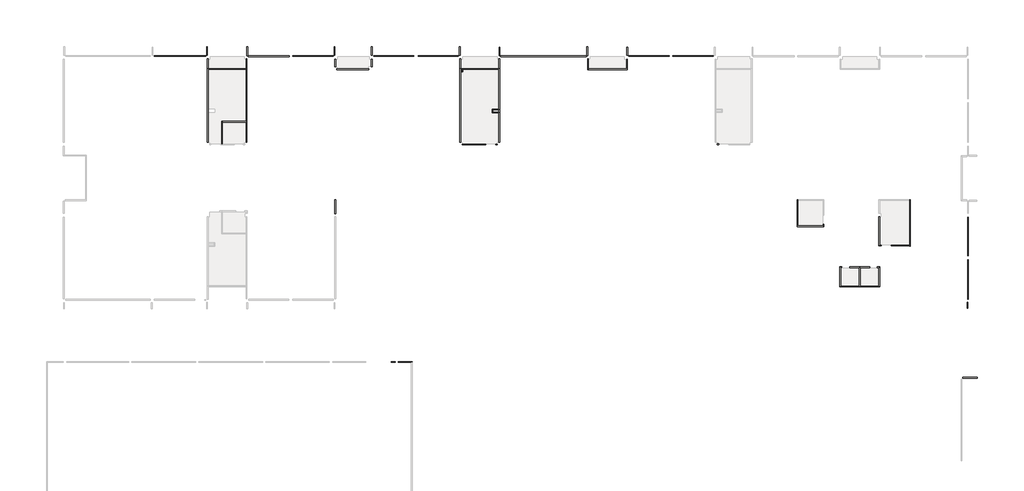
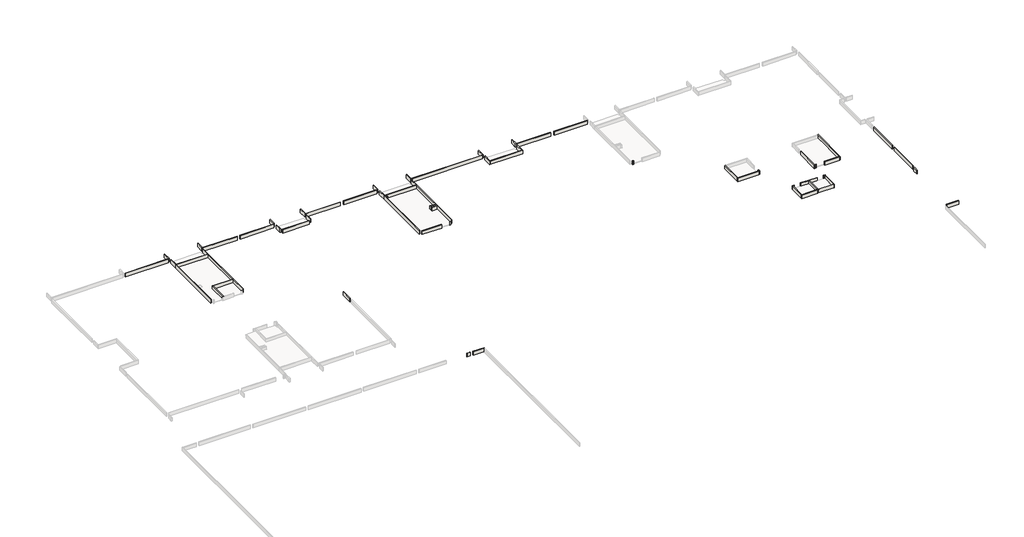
# One storey, part 3 of 4: 66 walls.
"""IFC4 building model written with IfcOpenShell, lengths in millimetres."""

from ifc_helpers import new_model, si_unit, frame, origin, place, context, project, spatial, polyline, outline, extrude, faceted_brep, element, save

model = new_model("IFC4")

# Units and contexts
model_context = context("Model", 3, world=origin())
ifc_project = project(units=[si_unit("LENGTHUNIT", "METRE", prefix="MILLI")], contexts=[model_context])

# Site, building, storey
site = spatial("IfcSite", under=ifc_project)
building = spatial("IfcBuilding", under=site)
storey = spatial("IfcBuildingStorey", under=building, Name="PLANTA DE IMPERMEABILIZAÇÃO - TERREO", Elevation=52050.0)

# Walls
placement = place(None, origin())
element("IfcWall", 1, ObjectType="Áreas frias", at=placement, inside=storey, context=model_context, shape_type="Brep", body=[
    faceted_brep([(-45007.049875, 22025.4418221, 52050.0), (-45007.049875, 28604.3823991, 52050.0), (-45007.049875, 28636.8823991, 52050.0), (-45007.049875, 28636.8823991, 52450.0), (-45007.049875, 28604.3823991, 52450.0), (-45007.049875, 22025.4418221, 52450.0), (-45072.049875, 22025.4418221, 52050.0), (-45072.049875, 22025.4418221, 52450.0), (-45072.049875, 28636.8823991, 52450.0), (-45072.049875, 28636.8823991, 52050.0)], [[[0, 1, 2, 3, 4, 5]], [[6, 7, 8, 9]], [[2, 1, 0, 6, 9]], [[3, 2, 9, 8]], [[5, 4, 3, 8, 7]], [[0, 5, 7, 6]]]),
])
element("IfcWall", 2, ObjectType="Áreas frias", at=placement, inside=storey, context=model_context, shape_type="Brep", body=[
    faceted_brep([(-45007.049875, 28604.3823991, 52050.0), (-41567.0467035, 28604.3823991, 52050.0), (-41567.0467035, 28604.3823991, 52450.0), (-45007.049875, 28604.3823991, 52450.0), (-45007.049875, 28669.3823991, 52050.0), (-45007.049875, 28669.3823991, 52450.0), (-41567.0467035, 28669.3823991, 52450.0), (-41567.0467035, 28669.3823991, 52050.0), (-45007.049875, 28636.8823991, 52050.0), (-41567.0467035, 28636.8823991, 52050.0), (-41567.0467035, 28636.8823991, 52450.0), (-45007.049875, 28636.8823991, 52450.0)], [[[0, 1, 2, 3]], [[4, 5, 6, 7]], [[1, 0, 8, 4, 7, 9]], [[3, 2, 10, 6, 5, 11]], [[0, 3, 11, 5, 4, 8]], [[2, 1, 9, 7, 6, 10]]]),
])
element("IfcWall", 3, ObjectType="Áreas frias", at=placement, inside=storey, context=model_context, shape_type="Brep", body=[
    faceted_brep([(-41567.0467035, 29574.7226879, 52050.0), (-41567.0467035, 28669.3823991, 52050.0), (-41567.0467035, 28636.8823991, 52050.0), (-41567.0467035, 28636.8823991, 52450.0), (-41567.0467035, 28669.3823991, 52450.0), (-41567.0467035, 29574.7226879, 52450.0), (-41502.0467035, 29574.7226879, 52050.0), (-41502.0467035, 29574.7226879, 52450.0), (-41502.0467035, 28636.8823991, 52450.0), (-41502.0467035, 28636.8823991, 52050.0)], [[[0, 1, 2, 3, 4, 5]], [[6, 7, 8, 9]], [[2, 1, 0, 6, 9]], [[3, 2, 9, 8]], [[5, 4, 3, 8, 7]], [[0, 5, 7, 6]]]),
])
element("IfcWall", 4, ObjectType="Áreas frias", at=placement, inside=storey, context=model_context, shape_type="Brep", body=[
    faceted_brep([(-43727.9504459, 21869.3823991, 52050.0), (-43727.9504459, 23849.3823991, 52050.0), (-43727.9504459, 23914.3823991, 52050.0), (-43727.9504459, 23914.3823991, 52450.0), (-43727.9504459, 23849.3823991, 52450.0), (-43727.9504459, 21869.3823991, 52450.0), (-43792.9504459, 21869.3823991, 52050.0), (-43792.9504459, 21869.3823991, 52450.0), (-43792.9504459, 23914.3823991, 52450.0), (-43792.9504459, 23914.3823991, 52050.0)], [[[0, 1, 2, 3, 4, 5]], [[6, 7, 8, 9]], [[2, 1, 0, 6, 9]], [[5, 4, 3, 8, 7]], [[3, 2, 9, 8]], [[0, 5, 7, 6]]]),
])
element("IfcWall", 5, ObjectType="Áreas frias", at=placement, inside=storey, context=model_context, shape_type="Brep", body=[
    faceted_brep([(-43727.9504459, 23849.3823991, 52050.0), (-41567.0467035, 23849.3823991, 52050.0), (-41567.0467035, 23849.3823991, 52450.0), (-43727.9504459, 23849.3823991, 52450.0), (-43727.9504459, 23914.3823991, 52050.0), (-43727.9504459, 23914.3823991, 52450.0), (-41567.0467035, 23914.3823991, 52450.0), (-41567.0467035, 23914.3823991, 52050.0), (-41567.0467035, 23867.9418221, 52050.0), (-41567.0467035, 23867.9418221, 52450.0)], [[[0, 1, 2, 3]], [[4, 5, 6, 7]], [[1, 0, 4, 7, 8]], [[3, 2, 9, 6, 5]], [[0, 3, 5, 4]], [[2, 1, 8, 7, 6, 9]]]),
])
element("IfcWall", 6, ObjectType="Áreas frias", at=placement, inside=storey, context=model_context, shape_type="SweptSolid", body=[
    extrude(outline(polyline([(-33577.0467035, 28823.9390638), (-33577.0467035, 29530.2226879), (-33512.0467035, 29530.2226879), (-33512.0467035, 28823.9390638), (-33577.0467035, 28823.9390638)])), frame((0.0, 0.0, 52050.0), z_axis=(0.0, 0.0, 1.0), x_axis=(1.0, 0.0, 0.0)), (0.0, 0.0, 1.0), 400.0),
])
element("IfcWall", 7, ObjectType="Áreas frias", at=placement, inside=storey, context=model_context, shape_type="SweptSolid", body=[
    extrude(outline(polyline([(-30505.3755098, 28586.4390638), (-33421.0467035, 28586.4390638), (-33421.0467035, 28651.4390638), (-30505.3755098, 28651.4390638), (-30505.3755098, 28586.4390638)])), frame((0.0, 0.0, 52050.0), z_axis=(0.0, 0.0, 1.0), x_axis=(1.0, 0.0, 0.0)), (0.0, 0.0, 1.0), 400.0),
])
element("IfcWall", 8, ObjectType="Áreas frias", at=placement, inside=storey, context=model_context, shape_type="SweptSolid", body=[
    extrude(outline(polyline([(-30225.8755098, 29530.2226879), (-30225.8755098, 28823.9390638), (-30290.8755098, 28823.9390638), (-30290.8755098, 29530.2226879), (-30225.8755098, 29530.2226879)])), frame((0.0, 0.0, 52050.0), z_axis=(0.0, 0.0, 1.0), x_axis=(1.0, 0.0, 0.0)), (0.0, 0.0, 1.0), 400.0),
])
element("IfcWall", 9, ObjectType="Áreas frias", at=placement, inside=storey, context=model_context, shape_type="Brep", body=[
    faceted_brep([(-22247.049875, 22016.4418221, 52050.0), (-22247.049875, 28604.3823991, 52050.0), (-22247.049875, 28636.8823991, 52050.0), (-22247.049875, 28636.8823991, 52450.0), (-22247.049875, 28604.3823991, 52450.0), (-22247.049875, 22016.4418221, 52450.0), (-22312.049875, 22016.4418221, 52050.0), (-22312.049875, 22016.4418221, 52450.0), (-22312.049875, 28636.8823991, 52450.0), (-22312.049875, 28636.8823991, 52050.0)], [[[0, 1, 2, 3, 4, 5]], [[6, 7, 8, 9]], [[2, 1, 0, 6, 9]], [[3, 2, 9, 8]], [[5, 4, 3, 8, 7]], [[0, 5, 7, 6]]]),
])
element("IfcWall", 10, ObjectType="Áreas frias", at=placement, inside=storey, context=model_context, shape_type="Brep", body=[
    faceted_brep([(-22247.049875, 28604.3823991, 52050.0), (-18802.0467035, 28604.3823991, 52050.0), (-18802.0467035, 28604.3823991, 52450.0), (-22247.049875, 28604.3823991, 52450.0), (-22247.049875, 28669.3823991, 52050.0), (-22247.049875, 28669.3823991, 52450.0), (-18802.0467035, 28669.3823991, 52450.0), (-18802.0467035, 28669.3823991, 52050.0), (-22247.049875, 28636.8823991, 52050.0), (-18802.0467035, 28636.8823991, 52050.0), (-18802.0467035, 28636.8823991, 52450.0), (-22247.049875, 28636.8823991, 52450.0)], [[[0, 1, 2, 3]], [[4, 5, 6, 7]], [[1, 0, 8, 4, 7, 9]], [[3, 2, 10, 6, 5, 11]], [[0, 3, 11, 5, 4, 8]], [[2, 1, 9, 7, 6, 10]]]),
])
element("IfcWall", 11, ObjectType="Áreas frias", at=placement, inside=storey, context=model_context, shape_type="Brep", body=[
    faceted_brep([(-18802.0467035, 29554.7226879, 52050.0), (-18802.0467035, 28669.3823991, 52050.0), (-18802.0467035, 28636.8823991, 52050.0), (-18802.0467035, 28636.8823991, 52450.0), (-18802.0467035, 28669.3823991, 52450.0), (-18802.0467035, 29554.7226879, 52450.0), (-18737.0467035, 29554.7226879, 52050.0), (-18737.0467035, 29554.7226879, 52450.0), (-18737.0467035, 28636.8823991, 52450.0), (-18737.0467035, 28636.8823991, 52050.0)], [[[0, 1, 2, 3, 4, 5]], [[6, 7, 8, 9]], [[2, 1, 0, 6, 9]], [[3, 2, 9, 8]], [[5, 4, 3, 8, 7]], [[0, 5, 7, 6]]]),
])
element("IfcWall", 12, ObjectType="Áreas frias", at=placement, inside=storey, context=model_context, shape_type="SweptSolid", body=[
    extrude(outline(polyline([(-19968.5467035, 21804.3823991), (-22090.5467035, 21804.3823991), (-22090.5467035, 21869.3823991), (-19968.5467035, 21869.3823991), (-19968.5467035, 21804.3823991)])), frame((0.0, 0.0, 52050.0), z_axis=(0.0, 0.0, 1.0), x_axis=(1.0, 0.0, 0.0)), (0.0, 0.0, 1.0), 400.0),
])
element("IfcWall", 13, ObjectType="Áreas frias", at=placement, inside=storey, context=model_context, shape_type="SweptSolid", body=[
    extrude(outline(polyline([(-18953.5467035, 21804.3823991), (-19068.5467035, 21804.3823991), (-19068.5467035, 21869.3823991), (-18953.5467035, 21869.3823991), (-18953.5467035, 21804.3823991)])), frame((0.0, 0.0, 52050.0), z_axis=(0.0, 0.0, 1.0), x_axis=(1.0, 0.0, 0.0)), (0.0, 0.0, 1.0), 400.0),
])
element("IfcWall", 14, ObjectType="Áreas frias", at=placement, inside=storey, context=model_context, shape_type="Brep", body=[
    faceted_brep([(-10812.0467035, 29554.7226879, 52050.0), (-10812.0467035, 28582.2226879, 52050.0), (-10812.0467035, 28582.2226879, 52450.0), (-10812.0467035, 29554.7226879, 52450.0), (-10747.0467035, 29554.7226879, 52050.0), (-10747.0467035, 29554.7226879, 52450.0), (-10747.0467035, 28647.2226879, 52450.0), (-10747.0467035, 28582.2226879, 52450.0), (-10747.0467035, 28582.2226879, 52050.0), (-10747.0467035, 28647.2226879, 52050.0)], [[[0, 1, 2, 3]], [[4, 5, 6, 7, 8, 9]], [[1, 0, 4, 9, 8]], [[3, 2, 7, 6, 5]], [[0, 3, 5, 4]], [[2, 1, 8, 7]]]),
])
element("IfcWall", 15, ObjectType="Áreas frias", at=placement, inside=storey, context=model_context, shape_type="Brep", body=[
    faceted_brep([(-10747.0467035, 28582.2226879, 52050.0), (-7227.0467035, 28582.2226879, 52050.0), (-7227.0467035, 28582.2226879, 52450.0), (-10747.0467035, 28582.2226879, 52450.0), (-10747.0467035, 28647.2226879, 52050.0), (-10747.0467035, 28647.2226879, 52450.0), (-7292.0467035, 28647.2226879, 52450.0), (-7227.0467035, 28647.2226879, 52450.0), (-7227.0467035, 28647.2226879, 52050.0), (-7292.0467035, 28647.2226879, 52050.0)], [[[0, 1, 2, 3]], [[4, 5, 6, 7, 8, 9]], [[1, 0, 4, 9, 8]], [[3, 2, 7, 6, 5]], [[0, 3, 5, 4]], [[2, 1, 8, 7]]]),
])
element("IfcWall", 16, ObjectType="Áreas frias", at=placement, inside=storey, context=model_context, shape_type="SweptSolid", body=[
    extrude(outline(polyline([(-7227.0467035, 29530.2226879), (-7227.0467035, 28647.2226879), (-7292.0467035, 28647.2226879), (-7292.0467035, 29530.2226879), (-7227.0467035, 29530.2226879)])), frame((0.0, 0.0, 52050.0), z_axis=(0.0, 0.0, 1.0), x_axis=(1.0, 0.0, 0.0)), (0.0, 0.0, 1.0), 400.0),
])
element("IfcWall", 17, ObjectType="Áreas frias", at=placement, inside=storey, context=model_context, shape_type="SweptSolid", body=[
    extrude(outline(polyline([(-10929.5467035, 29749.3823991), (-18619.5467035, 29749.3823991), (-18619.5467035, 29814.3823991), (-10929.5467035, 29814.3823991), (-10929.5467035, 29749.3823991)])), frame((0.0, 0.0, 52050.0), z_axis=(0.0, 0.0, 1.0), x_axis=(1.0, 0.0, 0.0)), (0.0, 0.0, 1.0), 400.0),
])
element("IfcWall", 18, ObjectType="Áreas frias", at=placement, inside=storey, context=model_context, shape_type="SweptSolid", body=[
    extrude(outline(polyline([(-10804.549875, 30643.7226879), (-10804.549875, 29848.7226879), (-10869.549875, 29848.7226879), (-10869.549875, 30643.7226879), (-10804.549875, 30643.7226879)])), frame((0.0, 0.0, 52050.0), z_axis=(0.0, 0.0, 1.0), x_axis=(1.0, 0.0, 0.0)), (0.0, 0.0, 1.0), 400.0),
])
element("IfcWall", 19, ObjectType="Áreas frias", at=placement, inside=storey, context=model_context, shape_type="SweptSolid", body=[
    extrude(outline(polyline([(-18705.7982892, 30608.7226879), (-18705.7982892, 29848.7226879), (-18770.7982892, 29848.7226879), (-18770.7982892, 30608.7226879), (-18705.7982892, 30608.7226879)])), frame((0.0, 0.0, 52050.0), z_axis=(0.0, 0.0, 1.0), x_axis=(1.0, 0.0, 0.0)), (0.0, 0.0, 1.0), 400.0),
])
element("IfcWall", 20, ObjectType="Áreas frias", at=placement, inside=storey, context=model_context, shape_type="SweptSolid", body=[
    extrude(outline(polyline([(-7194.3406887, 30613.2226879), (-7194.3406887, 29873.2226879), (-7259.3406887, 29873.2226879), (-7259.3406887, 30613.2226879), (-7194.3406887, 30613.2226879)])), frame((0.0, 0.0, 52050.0), z_axis=(0.0, 0.0, 1.0), x_axis=(1.0, 0.0, 0.0)), (0.0, 0.0, 1.0), 400.0),
])
element("IfcWall", 21, ObjectType="Áreas frias", at=placement, inside=storey, context=model_context, shape_type="SweptSolid", body=[
    extrude(outline(polyline([(-3456.0467035, 29771.8823991), (-7105.5467035, 29771.8823991), (-7105.5467035, 29836.8823991), (-3456.0467035, 29836.8823991), (-3456.0467035, 29771.8823991)])), frame((0.0, 0.0, 52050.0), z_axis=(0.0, 0.0, 1.0), x_axis=(1.0, 0.0, 0.0)), (0.0, 0.0, 1.0), 400.0),
])
element("IfcWall", 22, ObjectType="Áreas frias", at=placement, inside=storey, context=model_context, shape_type="SweptSolid", body=[
    extrude(outline(polyline([(531.4532965, 29771.8823991), (-3108.0467035, 29771.8823991), (-3108.0467035, 29836.8823991), (531.4532965, 29836.8823991), (531.4532965, 29771.8823991)])), frame((0.0, 0.0, 52050.0), z_axis=(0.0, 0.0, 1.0), x_axis=(1.0, 0.0, 0.0)), (0.0, 0.0, 1.0), 400.0),
])
element("IfcWall", 23, ObjectType="Áreas frias", at=placement, inside=storey, context=model_context, shape_type="SweptSolid", body=[
    extrude(outline(polyline([(1009.4532965, 21808.9418221), (884.4532965, 21808.9418221), (884.4532965, 21873.9418221), (1009.4532965, 21873.9418221), (1009.4532965, 21808.9418221)])), frame((0.0, 0.0, 52050.0), z_axis=(0.0, 0.0, 1.0), x_axis=(1.0, 0.0, 0.0)), (0.0, 0.0, 1.0), 400.0),
])
element("IfcWall", 24, ObjectType="Áreas frias", at=placement, inside=storey, context=model_context, shape_type="SweptSolid", body=[
    extrude(outline(polyline([(23442.9532965, 11780.912255), (23442.9532965, 15287.8823991), (23507.9532965, 15287.8823991), (23507.9532965, 11780.912255), (23442.9532965, 11780.912255)])), frame((0.0, 0.0, 52050.0), z_axis=(0.0, 0.0, 1.0), x_axis=(1.0, 0.0, 0.0)), (0.0, 0.0, 1.0), 400.0),
])
element("IfcWall", 25, ObjectType="Áreas frias", at=placement, inside=storey, context=model_context, shape_type="SweptSolid", body=[
    extrude(outline(polyline([(23442.9532965, 7903.9421108), (23442.9532965, 11437.912255), (23507.9532965, 11437.912255), (23507.9532965, 7903.9421108), (23442.9532965, 7903.9421108)])), frame((0.0, 0.0, 52050.0), z_axis=(0.0, 0.0, 1.0), x_axis=(1.0, 0.0, 0.0)), (0.0, 0.0, 1.0), 400.0),
])
element("IfcWall", 26, ObjectType="Áreas frias", at=placement, inside=storey, context=model_context, shape_type="SweptSolid", body=[
    extrude(outline(polyline([(23457.950125, 7609.9421108), (23457.950125, 7059.9421108), (23392.950125, 7059.9421108), (23392.950125, 7609.9421108), (23457.950125, 7609.9421108)])), frame((0.0, 0.0, 52050.0), z_axis=(0.0, 0.0, 1.0), x_axis=(1.0, 0.0, 0.0)), (0.0, 0.0, 1.0), 400.0),
])
element("IfcWall", 27, ObjectType="Áreas frias", at=placement, inside=storey, context=model_context, shape_type="SweptSolid", body=[
    extrude(outline(polyline([(23016.450125, 839.3823991), (24332.0605113, 839.3823991), (24332.0605113, 774.3823991), (23016.450125, 774.3823991), (23016.450125, 839.3823991)])), frame((0.0, 0.0, 52050.0), z_axis=(0.0, 0.0, 1.0), x_axis=(1.0, 0.0, 0.0)), (0.0, 0.0, 1.0), 400.0),
])
element("IfcWall", 28, ObjectType="Áreas frias", at=placement, inside=storey, context=model_context, shape_type="Brep", body=[
    faceted_brep([(13765.450125, 9002.3823973, 52050.0), (13765.450125, 9006.3823977, 52050.0), (13765.450125, 9071.3823977, 52050.0), (13765.450125, 10726.3823977, 52050.0), (13765.450125, 10726.3823977, 52450.0), (13765.450125, 9071.3823977, 52450.0), (13765.450125, 9006.3823977, 52450.0), (13765.450125, 9002.3823973, 52450.0), (13700.450125, 9002.3823973, 52050.0), (13700.450125, 9002.3823973, 52450.0), (13700.450125, 9006.3823977, 52450.0), (13700.450125, 9071.3823977, 52450.0), (13700.450125, 10726.3823977, 52450.0), (13700.450125, 10726.3823977, 52050.0), (13700.450125, 9071.3823977, 52050.0), (13700.450125, 9006.3823977, 52050.0), (13732.950125, 10726.3823977, 52050.0), (13732.950125, 10726.3823977, 52450.0)], [[[0, 1, 2, 3, 4, 5, 6, 7]], [[8, 9, 10, 11, 12, 13, 14, 15]], [[3, 2, 1, 0, 8, 15, 14, 13, 16]], [[7, 6, 5, 4, 17, 12, 11, 10, 9]], [[0, 7, 9, 8]], [[4, 3, 16, 13, 12, 17]]]),
])
element("IfcWall", 29, ObjectType="Áreas frias", at=placement, inside=storey, context=model_context, shape_type="Brep", body=[
    faceted_brep([(12820.4501439, 10726.3823977, 52050.0), (13700.450125, 10726.3823977, 52050.0), (13732.950125, 10726.3823977, 52050.0), (13732.950125, 10726.3823977, 52450.0), (13700.450125, 10726.3823977, 52450.0), (12820.4501439, 10726.3823977, 52450.0), (12820.4501439, 10791.3823977, 52050.0), (12820.4501439, 10791.3823977, 52450.0), (13732.950125, 10791.3823977, 52450.0), (13732.950125, 10791.3823977, 52050.0)], [[[0, 1, 2, 3, 4, 5]], [[6, 7, 8, 9]], [[2, 1, 0, 6, 9]], [[3, 2, 9, 8]], [[5, 4, 3, 8, 7]], [[0, 5, 7, 6]]]),
])
element("IfcWall", 30, ObjectType="Áreas frias", at=placement, inside=storey, context=model_context, shape_type="Brep", body=[
    faceted_brep([(15315.450125, 10726.3823977, 52050.0), (15452.950125, 10726.3823977, 52050.0), (15517.950125, 10726.3823977, 52050.0), (15517.950125, 10726.3823977, 52450.0), (15452.950125, 10726.3823977, 52450.0), (15315.450125, 10726.3823977, 52450.0), (15315.450125, 10791.3823977, 52050.0), (15315.450125, 10791.3823977, 52450.0), (15517.950125, 10791.3823977, 52450.0), (15517.950125, 10791.3823977, 52050.0)], [[[0, 1, 2, 3, 4, 5]], [[6, 7, 8, 9]], [[2, 1, 0, 6, 9]], [[5, 4, 3, 8, 7]], [[0, 5, 7, 6]], [[3, 2, 9, 8]]]),
])
element("IfcWall", 31, ObjectType="Áreas frias", at=placement, inside=storey, context=model_context, shape_type="Brep", body=[
    faceted_brep([(15452.950125, 10726.3823977, 52050.0), (15452.950125, 9071.3823977, 52050.0), (15452.950125, 9006.3823977, 52050.0), (15452.950125, 9006.3823977, 52450.0), (15452.950125, 9071.3823977, 52450.0), (15452.950125, 10726.3823977, 52450.0), (15517.950125, 10726.3823977, 52050.0), (15517.950125, 10726.3823977, 52450.0), (15517.950125, 9006.3823977, 52450.0), (15517.950125, 9006.3823977, 52050.0)], [[[0, 1, 2, 3, 4, 5]], [[6, 7, 8, 9]], [[2, 1, 0, 6, 9]], [[5, 4, 3, 8, 7]], [[0, 5, 7, 6]], [[3, 2, 9, 8]]]),
])
element("IfcWall", 32, ObjectType="Áreas frias", at=placement, inside=storey, context=model_context, shape_type="SweptSolid", body=[
    extrude(outline(polyline([(13765.450125, 9071.3823977), (15452.950125, 9071.3823977), (15452.950125, 9006.3823977), (13765.450125, 9006.3823977), (13765.450125, 9071.3823977)])), frame((0.0, 0.0, 52050.0), z_axis=(0.0, 0.0, 1.0), x_axis=(1.0, 0.0, 0.0)), (0.0, 0.0, 1.0), 400.0),
])
element("IfcWall", 33, ObjectType="Áreas frias", at=placement, inside=storey, context=model_context, shape_type="SweptSolid", body=[
    extrude(outline(polyline([(11997.950125, 10746.3823977), (11997.950125, 9071.3823977), (11932.950125, 9071.3823977), (11932.950125, 10746.3823977), (11997.950125, 10746.3823977)])), frame((0.0, 0.0, 52050.0), z_axis=(0.0, 0.0, 1.0), x_axis=(1.0, 0.0, 0.0)), (0.0, 0.0, 1.0), 400.0),
])
element("IfcWall", 34, ObjectType="Áreas frias", at=placement, inside=storey, context=model_context, shape_type="Brep", body=[
    faceted_brep([(11932.950125, 10746.3823977, 52050.0), (11997.950125, 10746.3823977, 52050.0), (12120.4501439, 10746.3823977, 52050.0), (12120.4501439, 10746.3823977, 52450.0), (11997.950125, 10746.3823977, 52450.0), (11932.950125, 10746.3823977, 52450.0), (11932.950125, 10811.3823977, 52050.0), (11932.950125, 10811.3823977, 52450.0), (12120.4501439, 10811.3823977, 52450.0), (12120.4501439, 10811.3823977, 52050.0)], [[[0, 1, 2, 3, 4, 5]], [[6, 7, 8, 9]], [[2, 1, 0, 6, 9]], [[3, 2, 9, 8]], [[5, 4, 3, 8, 7]], [[0, 5, 7, 6]]]),
])
element("IfcWall", 35, ObjectType="Áreas frias", at=placement, inside=storey, context=model_context, shape_type="Brep", body=[
    faceted_brep([(18289.9566277, 12670.8824248, 52050.0), (18289.9566277, 16863.3824248, 52050.0), (18289.9566277, 16863.3824248, 52450.0), (18289.9566277, 12670.8824248, 52450.0), (18224.9566277, 12670.8824248, 52050.0), (18224.9566277, 12670.8824248, 52450.0), (18224.9566277, 12685.8824248, 52450.0), (18224.9566277, 12750.8824248, 52450.0), (18224.9566277, 16798.3824248, 52450.0), (18224.9566277, 16863.3824248, 52450.0), (18224.9566277, 16863.3824248, 52050.0), (18224.9566277, 16798.3824248, 52050.0), (18224.9566277, 12750.8824248, 52050.0), (18224.9566277, 12685.8824248, 52050.0)], [[[0, 1, 2, 3]], [[4, 5, 6, 7, 8, 9, 10, 11, 12, 13]], [[1, 0, 4, 13, 12, 11, 10]], [[3, 2, 9, 8, 7, 6, 5]], [[0, 3, 5, 4]], [[2, 1, 10, 9]]]),
])
element("IfcWall", 36, ObjectType="Áreas frias", at=placement, inside=storey, context=model_context, shape_type="Brep", body=[
    faceted_brep([(15457.950125, 15301.8823991, 52050.0), (15457.950125, 12683.3824248, 52050.0), (15457.950125, 12683.3824248, 52450.0), (15457.950125, 15301.8823991, 52450.0), (15522.950125, 15301.8823991, 52050.0), (15522.950125, 15301.8823991, 52450.0), (15522.950125, 12748.3824248, 52450.0), (15522.950125, 12683.3824248, 52450.0), (15522.950125, 12683.3824248, 52050.0), (15522.950125, 12748.3824248, 52050.0)], [[[0, 1, 2, 3]], [[4, 5, 6, 7, 8, 9]], [[1, 0, 4, 9, 8]], [[3, 2, 7, 6, 5]], [[0, 3, 5, 4]], [[2, 1, 8, 7]]]),
])
element("IfcWall", 37, ObjectType="Áreas frias", at=placement, inside=storey, context=model_context, shape_type="SweptSolid", body=[
    extrude(outline(polyline([(15657.950125, 12683.3824248), (15522.950125, 12683.3824248), (15522.950125, 12748.3824248), (15657.950125, 12748.3824248), (15657.950125, 12683.3824248)])), frame((0.0, 0.0, 52050.0), z_axis=(0.0, 0.0, 1.0), x_axis=(1.0, 0.0, 0.0)), (0.0, 0.0, 1.0), 400.0),
])
element("IfcWall", 38, ObjectType="Áreas frias", at=placement, inside=storey, context=model_context, shape_type="SweptSolid", body=[
    extrude(outline(polyline([(18224.9566277, 12685.8824248), (16557.950125, 12685.8824248), (16557.950125, 12750.8824248), (18224.9566277, 12750.8824248), (18224.9566277, 12685.8824248)])), frame((0.0, 0.0, 52050.0), z_axis=(0.0, 0.0, 1.0), x_axis=(1.0, 0.0, 0.0)), (0.0, 0.0, 1.0), 400.0),
])
element("IfcWall", 39, ObjectType="Áreas frias", at=placement, inside=storey, context=model_context, shape_type="Brep", body=[
    faceted_brep([(10412.9501439, 14636.8823991, 52050.0), (10412.9501439, 14499.3823991, 52050.0), (10412.9501439, 14434.3823991, 52050.0), (10412.9501439, 14434.3823991, 52450.0), (10412.9501439, 14499.3823991, 52450.0), (10412.9501439, 14636.8823991, 52450.0), (10477.9501439, 14636.8823991, 52050.0), (10477.9501439, 14636.8823991, 52450.0), (10477.9501439, 14434.3823991, 52450.0), (10477.9501439, 14434.3823991, 52050.0)], [[[0, 1, 2, 3, 4, 5]], [[6, 7, 8, 9]], [[2, 1, 0, 6, 9]], [[5, 4, 3, 8, 7]], [[0, 5, 7, 6]], [[3, 2, 9, 8]]]),
])
element("IfcWall", 40, ObjectType="Áreas frias", at=placement, inside=storey, context=model_context, shape_type="Brep", body=[
    faceted_brep([(10412.9501439, 14499.3823991, 52050.0), (8137.9501439, 14499.3823991, 52050.0), (8072.9501439, 14499.3823991, 52050.0), (8072.9501439, 14499.3823991, 52450.0), (8137.9501439, 14499.3823991, 52450.0), (10412.9501439, 14499.3823991, 52450.0), (10412.9501439, 14434.3823991, 52050.0), (10412.9501439, 14434.3823991, 52450.0), (8072.9501439, 14434.3823991, 52450.0), (8072.9501439, 14434.3823991, 52050.0)], [[[0, 1, 2, 3, 4, 5]], [[6, 7, 8, 9]], [[2, 1, 0, 6, 9]], [[5, 4, 3, 8, 7]], [[0, 5, 7, 6]], [[3, 2, 9, 8]]]),
])
element("IfcWall", 41, ObjectType="Áreas frias", at=placement, inside=storey, context=model_context, shape_type="Brep", body=[
    faceted_brep([(8137.9501439, 14499.3823991, 52050.0), (8137.9501439, 16794.3823991, 52050.0), (8137.9501439, 16859.3823991, 52050.0), (8137.9501439, 16859.3823991, 52450.0), (8137.9501439, 16794.3823991, 52450.0), (8137.9501439, 14499.3823991, 52450.0), (8072.9501439, 14499.3823991, 52050.0), (8072.9501439, 14499.3823991, 52450.0), (8072.9501439, 16859.3823991, 52450.0), (8072.9501439, 16859.3823991, 52050.0)], [[[0, 1, 2, 3, 4, 5]], [[6, 7, 8, 9]], [[2, 1, 0, 6, 9]], [[5, 4, 3, 8, 7]], [[0, 5, 7, 6]], [[3, 2, 9, 8]]]),
])
element("IfcWall", 42, ObjectType="Áreas frias", at=placement, inside=storey, context=model_context, shape_type="SweptSolid", body=[
    extrude(outline(polyline([(-28152.8103323, 2201.8823991), (-28499.549875, 2201.8823991), (-28499.549875, 2266.8823991), (-28152.8103323, 2266.8823991), (-28152.8103323, 2201.8823991)])), frame((0.0, 0.0, 52050.0), z_axis=(0.0, 0.0, 1.0), x_axis=(1.0, 0.0, 0.0)), (0.0, 0.0, 1.0), 400.0),
])
element("IfcWall", 43, ObjectType="Áreas frias", at=placement, inside=storey, context=model_context, shape_type="Brep", body=[
    faceted_brep([(-27856.8103323, 2189.3823991, 52050.0), (-26692.049875, 2189.3823991, 52050.0), (-26627.049875, 2189.3823991, 52050.0), (-26627.049875, 2189.3823991, 52450.0), (-26692.049875, 2189.3823991, 52450.0), (-27856.8103323, 2189.3823991, 52450.0), (-27856.8103323, 2254.3823991, 52050.0), (-27856.8103323, 2254.3823991, 52450.0), (-26627.049875, 2254.3823991, 52450.0), (-26627.049875, 2254.3823991, 52050.0)], [[[0, 1, 2, 3, 4, 5]], [[6, 7, 8, 9]], [[2, 1, 0, 6, 9]], [[5, 4, 3, 8, 7]], [[0, 5, 7, 6]], [[3, 2, 9, 8]]]),
])
element("IfcWall", 44, ObjectType="Áreas frias", at=placement, inside=storey, context=model_context, shape_type="SweptSolid", body=[
    extrude(outline(polyline([(-33512.0467035, 16846.8823991), (-33512.0467035, 15591.8823991), (-33577.0467035, 15591.8823991), (-33577.0467035, 16846.8823991), (-33512.0467035, 16846.8823991)])), frame((0.0, 0.0, 52050.0), z_axis=(0.0, 0.0, 1.0), x_axis=(1.0, 0.0, 0.0)), (0.0, 0.0, 1.0), 400.0),
])
element("IfcWall", 45, ObjectType="Áreas frias", at=placement, inside=storey, context=model_context, shape_type="SweptSolid", body=[
    extrude(outline(polyline([(-45213.5467035, 29771.8823991), (-49853.1865458, 29771.8823991), (-49853.1865458, 29836.8823991), (-45213.5467035, 29836.8823991), (-45213.5467035, 29771.8823991)])), frame((0.0, 0.0, 52050.0), z_axis=(0.0, 0.0, 1.0), x_axis=(1.0, 0.0, 0.0)), (0.0, 0.0, 1.0), 400.0),
])
element("IfcWall", 46, ObjectType="Áreas frias", at=placement, inside=storey, context=model_context, shape_type="SweptSolid", body=[
    extrude(outline(polyline([(-45064.549875, 30656.8823997), (-45064.549875, 29873.2226879), (-45129.549875, 29873.2226879), (-45129.549875, 30656.8823997), (-45064.549875, 30656.8823997)])), frame((0.0, 0.0, 52050.0), z_axis=(0.0, 0.0, 1.0), x_axis=(1.0, 0.0, 0.0)), (0.0, 0.0, 1.0), 400.0),
])
element("IfcWall", 47, ObjectType="Áreas frias", at=placement, inside=storey, context=model_context, shape_type="SweptSolid", body=[
    extrude(outline(polyline([(-41444.549875, 30656.8823997), (-41444.549875, 29848.7226879), (-41509.549875, 29848.7226879), (-41509.549875, 30656.8823997), (-41444.549875, 30656.8823997)])), frame((0.0, 0.0, 52050.0), z_axis=(0.0, 0.0, 1.0), x_axis=(1.0, 0.0, 0.0)), (0.0, 0.0, 1.0), 400.0),
])
element("IfcWall", 48, ObjectType="Áreas frias", at=placement, inside=storey, context=model_context, shape_type="SweptSolid", body=[
    extrude(outline(polyline([(-37689.5467035, 29749.3823991), (-41384.5467035, 29749.3823991), (-41384.5467035, 29814.3823991), (-37689.5467035, 29814.3823991), (-37689.5467035, 29749.3823991)])), frame((0.0, 0.0, 52050.0), z_axis=(0.0, 0.0, 1.0), x_axis=(1.0, 0.0, 0.0)), (0.0, 0.0, 1.0), 400.0),
])
element("IfcWall", 49, ObjectType="Áreas frias", at=placement, inside=storey, context=model_context, shape_type="SweptSolid", body=[
    extrude(outline(polyline([(-33728.5467035, 29771.8823991), (-37379.5467035, 29771.8823991), (-37379.5467035, 29836.8823991), (-33728.5467035, 29836.8823991), (-33728.5467035, 29771.8823991)])), frame((0.0, 0.0, 52050.0), z_axis=(0.0, 0.0, 1.0), x_axis=(1.0, 0.0, 0.0)), (0.0, 0.0, 1.0), 400.0),
])
element("IfcWall", 50, ObjectType="Áreas frias", at=placement, inside=storey, context=model_context, shape_type="SweptSolid", body=[
    extrude(outline(polyline([(-33569.549875, 30633.2226879), (-33569.549875, 29873.2226879), (-33634.549875, 29873.2226879), (-33634.549875, 30633.2226879), (-33569.549875, 30633.2226879)])), frame((0.0, 0.0, 52050.0), z_axis=(0.0, 0.0, 1.0), x_axis=(1.0, 0.0, 0.0)), (0.0, 0.0, 1.0), 400.0),
])
element("IfcWall", 51, ObjectType="Áreas frias", at=placement, inside=storey, context=model_context, shape_type="SweptSolid", body=[
    extrude(outline(polyline([(-30214.549875, 30656.8823997), (-30214.549875, 29873.2226879), (-30279.549875, 29873.2226879), (-30279.549875, 30656.8823997), (-30214.549875, 30656.8823997)])), frame((0.0, 0.0, 52050.0), z_axis=(0.0, 0.0, 1.0), x_axis=(1.0, 0.0, 0.0)), (0.0, 0.0, 1.0), 400.0),
])
element("IfcWall", 52, ObjectType="Áreas frias", at=placement, inside=storey, context=model_context, shape_type="SweptSolid", body=[
    extrude(outline(polyline([(-26453.5467035, 29771.8823991), (-30080.5467035, 29771.8823991), (-30080.5467035, 29836.8823991), (-26453.5467035, 29836.8823991), (-26453.5467035, 29771.8823991)])), frame((0.0, 0.0, 52050.0), z_axis=(0.0, 0.0, 1.0), x_axis=(1.0, 0.0, 0.0)), (0.0, 0.0, 1.0), 400.0),
])
element("IfcWall", 53, ObjectType="Áreas frias", at=placement, inside=storey, context=model_context, shape_type="SweptSolid", body=[
    extrude(outline(polyline([(-22448.5467035, 29771.8823991), (-26085.5467035, 29771.8823991), (-26085.5467035, 29836.8823991), (-22448.5467035, 29836.8823991), (-22448.5467035, 29771.8823991)])), frame((0.0, 0.0, 52050.0), z_axis=(0.0, 0.0, 1.0), x_axis=(1.0, 0.0, 0.0)), (0.0, 0.0, 1.0), 400.0),
])
element("IfcWall", 54, ObjectType="Áreas frias", at=placement, inside=storey, context=model_context, shape_type="SweptSolid", body=[
    extrude(outline(polyline([(-22299.549875, 30643.2226879), (-22299.549875, 29873.2226879), (-22364.549875, 29873.2226879), (-22364.549875, 30643.2226879), (-22299.549875, 30643.2226879)])), frame((0.0, 0.0, 52050.0), z_axis=(0.0, 0.0, 1.0), x_axis=(1.0, 0.0, 0.0)), (0.0, 0.0, 1.0), 400.0),
])
element("IfcWall", 55, ObjectType="Áreas frias", at=placement, inside=storey, context=model_context, shape_type="Brep", body=[
    faceted_brep([(-45007.049875, 28636.8823991, 52050.0), (-45007.049875, 28669.3823991, 52050.0), (-45007.049875, 29565.4418221, 52050.0), (-45007.049875, 29565.4418221, 52450.0), (-45007.049875, 28669.3823991, 52450.0), (-45007.049875, 28636.8823991, 52450.0), (-45072.049875, 28636.8823991, 52050.0), (-45072.049875, 28636.8823991, 52450.0), (-45072.049875, 29565.4418221, 52450.0), (-45072.049875, 29565.4418221, 52050.0)], [[[0, 1, 2, 3, 4, 5]], [[6, 7, 8, 9]], [[2, 1, 0, 6, 9]], [[3, 2, 9, 8]], [[5, 4, 3, 8, 7]], [[0, 5, 7, 6]]]),
])
element("IfcWall", 56, ObjectType="Áreas frias", at=placement, inside=storey, context=model_context, shape_type="Brep", body=[
    faceted_brep([(-41567.0467035, 28636.8823991, 52050.0), (-41567.0467035, 28604.3823991, 52050.0), (-41567.0467035, 23914.3823991, 52050.0), (-41567.0467035, 23867.9418221, 52050.0), (-41567.0467035, 23867.9418221, 52450.0), (-41567.0467035, 23914.3823991, 52450.0), (-41567.0467035, 28604.3823991, 52450.0), (-41567.0467035, 28636.8823991, 52450.0), (-41502.0467035, 28636.8823991, 52050.0), (-41502.0467035, 28636.8823991, 52450.0), (-41502.0467035, 23867.9418221, 52450.0), (-41502.0467035, 23867.9418221, 52050.0)], [[[0, 1, 2, 3, 4, 5, 6, 7]], [[8, 9, 10, 11]], [[3, 2, 1, 0, 8, 11]], [[4, 3, 11, 10]], [[7, 6, 5, 4, 10, 9]], [[0, 7, 9, 8]]]),
])
element("IfcWall", 57, ObjectType="Áreas frias", at=placement, inside=storey, context=model_context, shape_type="Brep", body=[
    faceted_brep([(-22247.049875, 28636.8823991, 52050.0), (-22247.049875, 28669.3823991, 52050.0), (-22247.049875, 29536.4418221, 52050.0), (-22247.049875, 29536.4418221, 52450.0), (-22247.049875, 28669.3823991, 52450.0), (-22247.049875, 28636.8823991, 52450.0), (-22312.049875, 28636.8823991, 52050.0), (-22312.049875, 28636.8823991, 52450.0), (-22312.049875, 29536.4418221, 52450.0), (-22312.049875, 29536.4418221, 52050.0)], [[[0, 1, 2, 3, 4, 5]], [[6, 7, 8, 9]], [[2, 1, 0, 6, 9]], [[3, 2, 9, 8]], [[5, 4, 3, 8, 7]], [[0, 5, 7, 6]]]),
])
element("IfcWall", 58, ObjectType="Áreas frias", at=placement, inside=storey, context=model_context, shape_type="Brep", body=[
    faceted_brep([(-18802.0467035, 28636.8823991, 52050.0), (-18802.0467035, 28604.3823991, 52050.0), (-18802.0467035, 22026.4418221, 52050.0), (-18802.0467035, 22026.4418221, 52450.0), (-18802.0467035, 28604.3823991, 52450.0), (-18802.0467035, 28636.8823991, 52450.0), (-18737.0467035, 28636.8823991, 52050.0), (-18737.0467035, 28636.8823991, 52450.0), (-18737.0467035, 22026.4418221, 52450.0), (-18737.0467035, 22026.4418221, 52050.0)], [[[0, 1, 2, 3, 4, 5]], [[6, 7, 8, 9]], [[2, 1, 0, 6, 9]], [[3, 2, 9, 8]], [[5, 4, 3, 8, 7]], [[0, 5, 7, 6]]]),
])
element("IfcWall", 59, ObjectType="Áreas frias", at=placement, inside=storey, context=model_context, shape_type="SweptSolid", body=[
    extrude(outline(polyline([(-41567.0467035, 22027.9418221), (-41567.0467035, 23867.9418221), (-41502.0467035, 23867.9418221), (-41502.0467035, 22027.9418221), (-41567.0467035, 22027.9418221)])), frame((0.0, 0.0, 52050.0), z_axis=(0.0, 0.0, 1.0), x_axis=(1.0, 0.0, 0.0)), (0.0, 0.0, 1.0), 400.0),
])
element("IfcWall", 60, ObjectType="Áreas frias", at=placement, inside=storey, context=model_context, shape_type="Brep", body=[
    faceted_brep([(-18812.049875, 24739.3823991, 52050.0), (-19337.049875, 24739.3823991, 52050.0), (-19402.049875, 24739.3823991, 52050.0), (-19402.049875, 24739.3823991, 52450.0), (-19337.049875, 24739.3823991, 52450.0), (-18812.049875, 24739.3823991, 52450.0), (-18812.049875, 24674.3823991, 52050.0), (-18812.049875, 24674.3823991, 52450.0), (-19402.049875, 24674.3823991, 52450.0), (-19402.049875, 24674.3823991, 52050.0)], [[[0, 1, 2, 3, 4, 5]], [[6, 7, 8, 9]], [[2, 1, 0, 6, 9]], [[5, 4, 3, 8, 7]], [[0, 5, 7, 6]], [[3, 2, 9, 8]]]),
])
element("IfcWall", 61, ObjectType="Áreas frias", at=placement, inside=storey, context=model_context, shape_type="Brep", body=[
    faceted_brep([(-19337.049875, 24739.3823991, 52050.0), (-19337.049875, 24954.3850283, 52050.0), (-19337.049875, 25019.3850283, 52050.0), (-19337.049875, 25019.3850283, 52450.0), (-19337.049875, 24954.3850283, 52450.0), (-19337.049875, 24739.3823991, 52450.0), (-19402.049875, 24739.3823991, 52050.0), (-19402.049875, 24739.3823991, 52450.0), (-19402.049875, 25019.3850283, 52450.0), (-19402.049875, 25019.3850283, 52050.0)], [[[0, 1, 2, 3, 4, 5]], [[6, 7, 8, 9]], [[2, 1, 0, 6, 9]], [[5, 4, 3, 8, 7]], [[0, 5, 7, 6]], [[3, 2, 9, 8]]]),
])
element("IfcWall", 62, ObjectType="Áreas frias", at=placement, inside=storey, context=model_context, shape_type="SweptSolid", body=[
    extrude(outline(polyline([(-18812.049875, 24954.3850283), (-19337.049875, 24954.3850283), (-19337.049875, 25019.3850283), (-18812.049875, 25019.3850283), (-18812.049875, 24954.3850283)])), frame((0.0, 0.0, 52050.0), z_axis=(0.0, 0.0, 1.0), x_axis=(1.0, 0.0, 0.0)), (0.0, 0.0, 1.0), 400.0),
])
element("IfcWall", 63, ObjectType="Áreas frias", at=placement, inside=storey, context=model_context, shape_type="Brep", body=[
    faceted_brep([(-22107.549875, 28581.8823991, 52050.0), (-22107.549875, 28454.8823991, 52050.0), (-22107.549875, 28389.8823991, 52050.0), (-22107.549875, 28389.8823991, 52450.0), (-22107.549875, 28454.8823991, 52450.0), (-22107.549875, 28581.8823991, 52450.0), (-22042.549875, 28581.8823991, 52050.0), (-22042.549875, 28581.8823991, 52450.0), (-22042.549875, 28389.8823991, 52450.0), (-22042.549875, 28389.8823991, 52050.0)], [[[0, 1, 2, 3, 4, 5]], [[6, 7, 8, 9]], [[2, 1, 0, 6, 9]], [[5, 4, 3, 8, 7]], [[0, 5, 7, 6]], [[3, 2, 9, 8]]]),
])
element("IfcWall", 64, ObjectType="Áreas frias", at=placement, inside=storey, context=model_context, shape_type="SweptSolid", body=[
    extrude(outline(polyline([(-22232.049875, 28454.8823991), (-22107.549875, 28454.8823991), (-22107.549875, 28389.8823991), (-22232.049875, 28389.8823991), (-22232.049875, 28454.8823991)])), frame((0.0, 0.0, 52050.0), z_axis=(0.0, 0.0, 1.0), x_axis=(1.0, 0.0, 0.0)), (0.0, 0.0, 1.0), 400.0),
])
element("IfcWall", 65, ObjectType="Áreas frias", at=placement, inside=storey, context=model_context, shape_type="Brep", body=[
    faceted_brep([(13700.450125, 9071.3823977, 52050.0), (11997.950125, 9071.3823977, 52050.0), (11932.950125, 9071.3823977, 52050.0), (11932.950125, 9071.3823977, 52450.0), (11997.950125, 9071.3823977, 52450.0), (13700.450125, 9071.3823977, 52450.0), (13700.450125, 9006.3823977, 52050.0), (13700.450125, 9006.3823977, 52450.0), (11932.950125, 9006.3823977, 52450.0), (11932.950125, 9006.3823977, 52050.0)], [[[0, 1, 2, 3, 4, 5]], [[6, 7, 8, 9]], [[2, 1, 0, 6, 9]], [[5, 4, 3, 8, 7]], [[3, 2, 9, 8]], [[0, 5, 7, 6]]]),
])
element("IfcWall", 66, ObjectType="Áreas frias", at=placement, inside=storey, context=model_context, shape_type="Brep", body=[
    faceted_brep([(13732.950125, 10726.3823977, 52050.0), (13765.450125, 10726.3823977, 52050.0), (14615.450125, 10726.3823977, 52050.0), (14615.450125, 10726.3823977, 52450.0), (13765.450125, 10726.3823977, 52450.0), (13732.950125, 10726.3823977, 52450.0), (13732.950125, 10791.3823977, 52050.0), (13732.950125, 10791.3823977, 52450.0), (14615.450125, 10791.3823977, 52450.0), (14615.450125, 10791.3823977, 52050.0)], [[[0, 1, 2, 3, 4, 5]], [[6, 7, 8, 9]], [[2, 1, 0, 6, 9]], [[3, 2, 9, 8]], [[5, 4, 3, 8, 7]], [[0, 5, 7, 6]]]),
])

save(model, "model.ifc")
